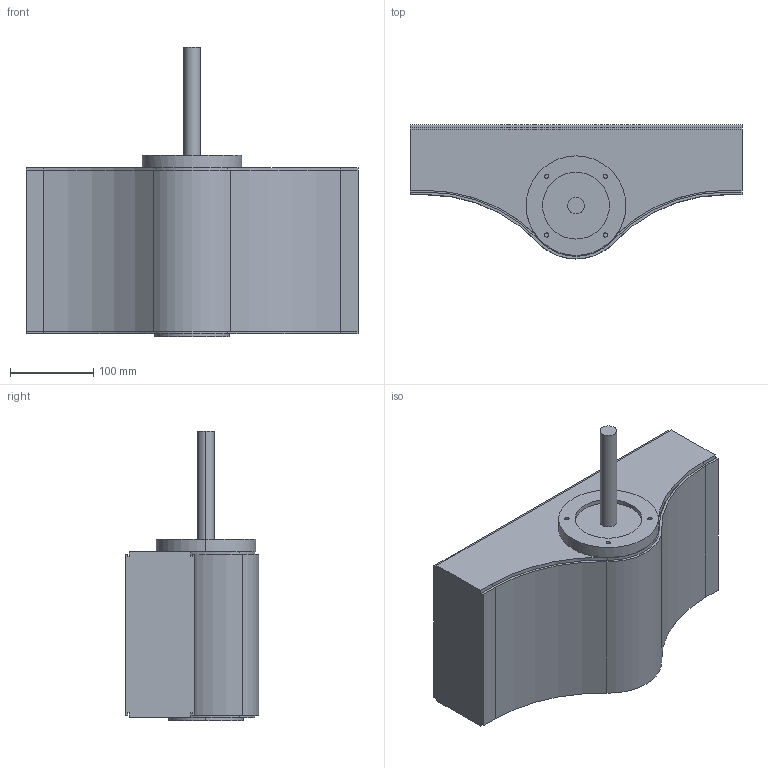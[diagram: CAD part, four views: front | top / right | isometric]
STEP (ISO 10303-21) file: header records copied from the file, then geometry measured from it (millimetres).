
FILE_DESCRIPTION (( 'STEP AP214' ), '1' );
FILE_NAME ('CS SL Centeraandrijving.200.STEP', '2017-02-08T07:35:02', ( '' ), ( '' ), 'SwSTEP 2.0', 'SolidWorks 2016', '' );
FILE_SCHEMA (( 'AUTOMOTIVE_DESIGN' ));
Length unit declared in the file: millimetre
Products named in the file (1): CS SL Centeraandrijving.200
Bounding box: 400 x 161.3 x 349 mm (x, y, z)
Volume: 9154774.4 mm3; surface area: 323900.2 mm2
Topology: 1 solids, 1 shells, 67 faces, 172 edges, 114 vertices
Faces by surface type: plane 36, cylinder 31
Entity records: 2090 total; most frequent: DIRECTION 374, CARTESIAN_POINT 354, ORIENTED_EDGE 344, EDGE_CURVE 172, AXIS2_PLACEMENT_3D 134, VERTEX_POINT 114, VECTOR 106, LINE 106
